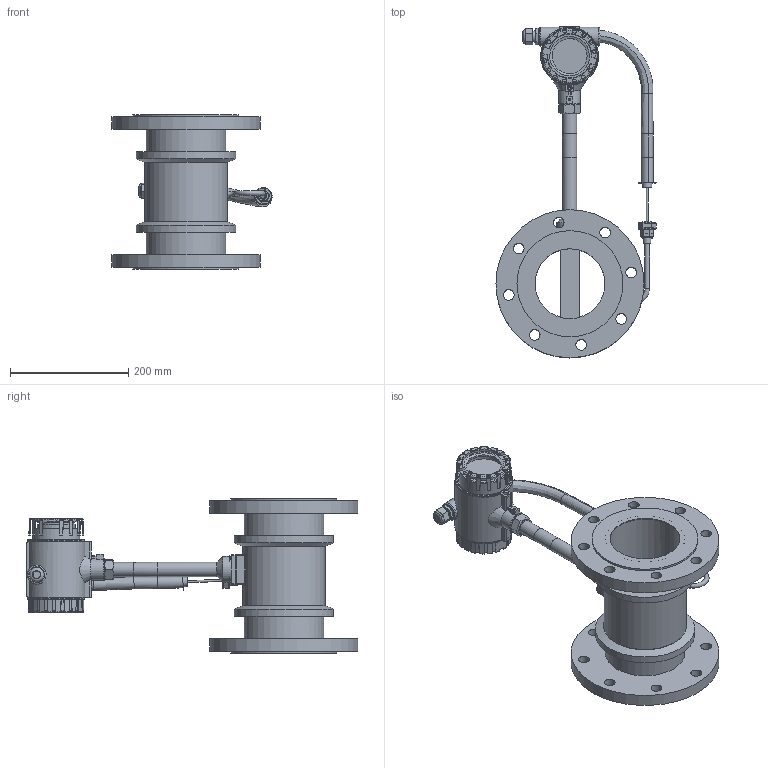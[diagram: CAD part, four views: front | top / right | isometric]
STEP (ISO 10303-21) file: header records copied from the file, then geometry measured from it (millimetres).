
FILE_DESCRIPTION(/* description */ ('STEP AP214'),/* implementation_level */ '2;1');
FILE_NAME(/* name */ 'DN125 vortex.step',/* time_stamp */ '2025-09-25T18:11:15+03:00',/* author */ (''),/* organization */ (''),/* preprocessor_version */ 'ST-DEVELOPER v20.1',/* originating_system */ 'Autodesk Translation Framework v14.10.0.0',/* authorisation */ '');
FILE_SCHEMA (('AUTOMOTIVE_DESIGN { 1 0 10303 214 3 1 1 }'));
Length unit declared in the file: millimetre
Products named in the file (1): DN100法兰连接装配体
Bounding box: 270.4 x 560.2 x 260.01 mm (x, y, z)
Volume: 3395158.1 mm3; surface area: 738643.7 mm2
Topology: 23 solids, 24 shells, 896 faces, 2200 edges, 1390 vertices
Faces by surface type: plane 505, cylinder 247, torus 59, cone 53, bspline 28, sphere 4
Full cylindrical faces by diameter (mm): 3.2 x1, 3.3 x1, 3.65 x2, 4.2 x10, 6 x12, 8 x4, 8.7 x2, 9 x1, 10 x1, 12 x1, 12.4 x1, 13 x1, 14 x1, 16 x2, 17.727 x4, 18 x21, 19 x7, 19.2 x2, 20 x1, 20.6 x1, 20.655 x1, 22.6 x1, 24 x2, 24.2 x1, 28 x2, 31.9 x2, 38 x1, 44 x1, 59 x1, 64 x1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
Entity records: 30066 total; most frequent: CARTESIAN_POINT 8298, DIRECTION 4763, ORIENTED_EDGE 4370, EDGE_CURVE 2185, AXIS2_PLACEMENT_3D 1816, VERTEX_POINT 1390, LINE 1131, VECTOR 1131
